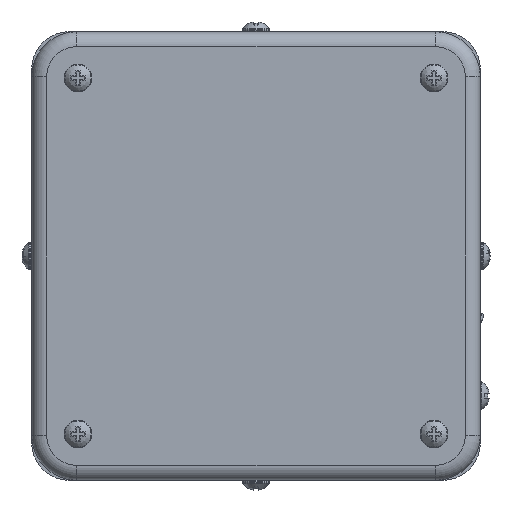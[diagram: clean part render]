
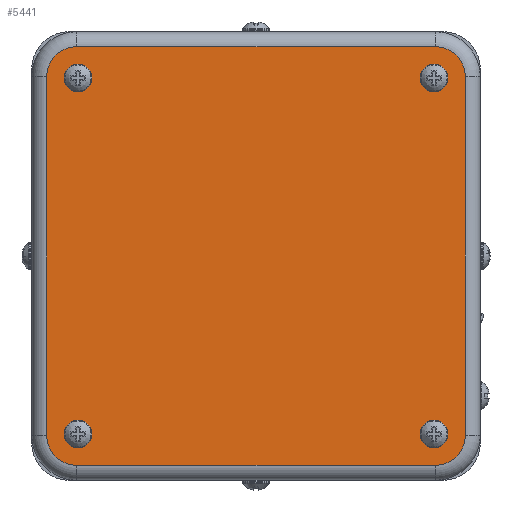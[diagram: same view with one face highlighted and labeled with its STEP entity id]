
A CAD part, left-side view. The second image highlights one B-rep face of the part: STEP entity #5441.
In plain terms, the highlighted planar face has unit normal (-1, 0, 0).
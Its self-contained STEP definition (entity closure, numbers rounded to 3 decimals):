
#481=FACE_BOUND('',#1211,.T.);
#482=FACE_BOUND('',#1212,.T.);
#483=FACE_BOUND('',#1213,.T.);
#484=FACE_BOUND('',#1214,.T.);
#585=PLANE('',#5933);
#868=FACE_OUTER_BOUND('',#1210,.T.);
#1210=EDGE_LOOP('',(#4471,#4472,#4473,#4474,#4475,#4476,#4477,#4478));
#1211=EDGE_LOOP('',(#4479));
#1212=EDGE_LOOP('',(#4480));
#1213=EDGE_LOOP('',(#4481));
#1214=EDGE_LOOP('',(#4482));
#1567=LINE('',#8676,#1971);
#1570=LINE('',#8687,#1974);
#1572=LINE('',#8696,#1976);
#1574=LINE('',#8705,#1978);
#1971=VECTOR('',#6973,72.);
#1974=VECTOR('',#6988,72.);
#1976=VECTOR('',#7000,72.);
#1978=VECTOR('',#7012,72.);
#2221=CIRCLE('',#5718,2.8);
#2312=CIRCLE('',#5918,6.);
#2315=CIRCLE('',#5923,6.);
#2318=CIRCLE('',#5928,6.);
#2320=CIRCLE('',#5932,6.);
#2321=CIRCLE('',#5934,2.8);
#2322=CIRCLE('',#5935,2.8);
#2323=CIRCLE('',#5936,2.8);
#2461=VERTEX_POINT('',#7828);
#2655=VERTEX_POINT('',#8673);
#2656=VERTEX_POINT('',#8675);
#2657=VERTEX_POINT('',#8680);
#2658=VERTEX_POINT('',#8685);
#2659=VERTEX_POINT('',#8689);
#2660=VERTEX_POINT('',#8694);
#2661=VERTEX_POINT('',#8698);
#2662=VERTEX_POINT('',#8703);
#2663=VERTEX_POINT('',#8709);
#2664=VERTEX_POINT('',#8711);
#2665=VERTEX_POINT('',#8713);
#3005=EDGE_CURVE('',#2461,#2461,#2221,.T.);
#3292=EDGE_CURVE('',#2655,#2656,#1567,.T.);
#3296=EDGE_CURVE('',#2657,#2655,#2312,.T.);
#3299=EDGE_CURVE('',#2658,#2657,#1570,.T.);
#3301=EDGE_CURVE('',#2659,#2658,#2315,.T.);
#3304=EDGE_CURVE('',#2660,#2659,#1572,.T.);
#3306=EDGE_CURVE('',#2661,#2660,#2318,.T.);
#3309=EDGE_CURVE('',#2662,#2661,#1574,.T.);
#3310=EDGE_CURVE('',#2656,#2662,#2320,.T.);
#3311=EDGE_CURVE('',#2663,#2663,#2321,.T.);
#3312=EDGE_CURVE('',#2664,#2664,#2322,.T.);
#3313=EDGE_CURVE('',#2665,#2665,#2323,.T.);
#4471=ORIENTED_EDGE('',*,*,#3310,.F.);
#4472=ORIENTED_EDGE('',*,*,#3292,.F.);
#4473=ORIENTED_EDGE('',*,*,#3296,.F.);
#4474=ORIENTED_EDGE('',*,*,#3299,.F.);
#4475=ORIENTED_EDGE('',*,*,#3301,.F.);
#4476=ORIENTED_EDGE('',*,*,#3304,.F.);
#4477=ORIENTED_EDGE('',*,*,#3306,.F.);
#4478=ORIENTED_EDGE('',*,*,#3309,.F.);
#4479=ORIENTED_EDGE('',*,*,#3311,.T.);
#4480=ORIENTED_EDGE('',*,*,#3005,.T.);
#4481=ORIENTED_EDGE('',*,*,#3312,.T.);
#4482=ORIENTED_EDGE('',*,*,#3313,.T.);
#5441=ADVANCED_FACE('',(#868,#481,#482,#483,#484),#585,.F.);
#5718=AXIS2_PLACEMENT_3D('',#7829,#6418,#6419);
#5918=AXIS2_PLACEMENT_3D('',#8682,#6981,#6982);
#5923=AXIS2_PLACEMENT_3D('',#8691,#6993,#6994);
#5928=AXIS2_PLACEMENT_3D('',#8700,#7005,#7006);
#5932=AXIS2_PLACEMENT_3D('',#8707,#7015,#7016);
#5933=AXIS2_PLACEMENT_3D('',#8708,#7017,#7018);
#5934=AXIS2_PLACEMENT_3D('',#8710,#7019,#7020);
#5935=AXIS2_PLACEMENT_3D('',#8712,#7021,#7022);
#5936=AXIS2_PLACEMENT_3D('',#8714,#7023,#7024);
#6418=DIRECTION('center_axis',(1.,0.,0.));
#6419=DIRECTION('ref_axis',(0.,0.,1.));
#6973=DIRECTION('',(0.,0.,-1.));
#6981=DIRECTION('center_axis',(1.,0.,0.));
#6982=DIRECTION('ref_axis',(0.,-0.707,0.707));
#6988=DIRECTION('',(0.,-1.,0.));
#6993=DIRECTION('center_axis',(1.,0.,0.));
#6994=DIRECTION('ref_axis',(0.,0.707,0.707));
#7000=DIRECTION('',(0.,0.,1.));
#7005=DIRECTION('center_axis',(1.,0.,0.));
#7006=DIRECTION('ref_axis',(0.,0.707,-0.707));
#7012=DIRECTION('',(0.,1.,0.));
#7015=DIRECTION('center_axis',(1.,0.,0.));
#7016=DIRECTION('ref_axis',(0.,-0.707,-0.707));
#7017=DIRECTION('center_axis',(1.,0.,0.));
#7018=DIRECTION('ref_axis',(0.,0.,-1.));
#7019=DIRECTION('center_axis',(1.,0.,0.));
#7020=DIRECTION('ref_axis',(0.,0.,1.));
#7021=DIRECTION('center_axis',(1.,0.,0.));
#7022=DIRECTION('ref_axis',(0.,0.,1.));
#7023=DIRECTION('center_axis',(1.,0.,0.));
#7024=DIRECTION('ref_axis',(0.,0.,1.));
#7828=CARTESIAN_POINT('',(-54.8,-35.709,32.909));
#7829=CARTESIAN_POINT('Origin',(-54.8,-35.709,35.709));
#8673=CARTESIAN_POINT('',(-54.8,-42.,36.));
#8675=CARTESIAN_POINT('',(-54.8,-42.,-36.));
#8676=CARTESIAN_POINT('',(-54.8,-42.,36.));
#8680=CARTESIAN_POINT('',(-54.8,-36.,42.));
#8682=CARTESIAN_POINT('Origin',(-54.8,-36.,36.));
#8685=CARTESIAN_POINT('',(-54.8,36.,42.));
#8687=CARTESIAN_POINT('',(-54.8,36.,42.));
#8689=CARTESIAN_POINT('',(-54.8,42.,36.));
#8691=CARTESIAN_POINT('Origin',(-54.8,36.,36.));
#8694=CARTESIAN_POINT('',(-54.8,42.,-36.));
#8696=CARTESIAN_POINT('',(-54.8,42.,-36.));
#8698=CARTESIAN_POINT('',(-54.8,36.,-42.));
#8700=CARTESIAN_POINT('Origin',(-54.8,36.,-36.));
#8703=CARTESIAN_POINT('',(-54.8,-36.,-42.));
#8705=CARTESIAN_POINT('',(-54.8,-36.,-42.));
#8707=CARTESIAN_POINT('Origin',(-54.8,-36.,-36.));
#8708=CARTESIAN_POINT('Origin',(-54.8,-7.027,-7.027));
#8709=CARTESIAN_POINT('',(-54.8,35.709,32.909));
#8710=CARTESIAN_POINT('Origin',(-54.8,35.709,35.709));
#8711=CARTESIAN_POINT('',(-54.8,35.709,-38.509));
#8712=CARTESIAN_POINT('Origin',(-54.8,35.709,-35.709));
#8713=CARTESIAN_POINT('',(-54.8,-35.709,-38.509));
#8714=CARTESIAN_POINT('Origin',(-54.8,-35.709,-35.709));
